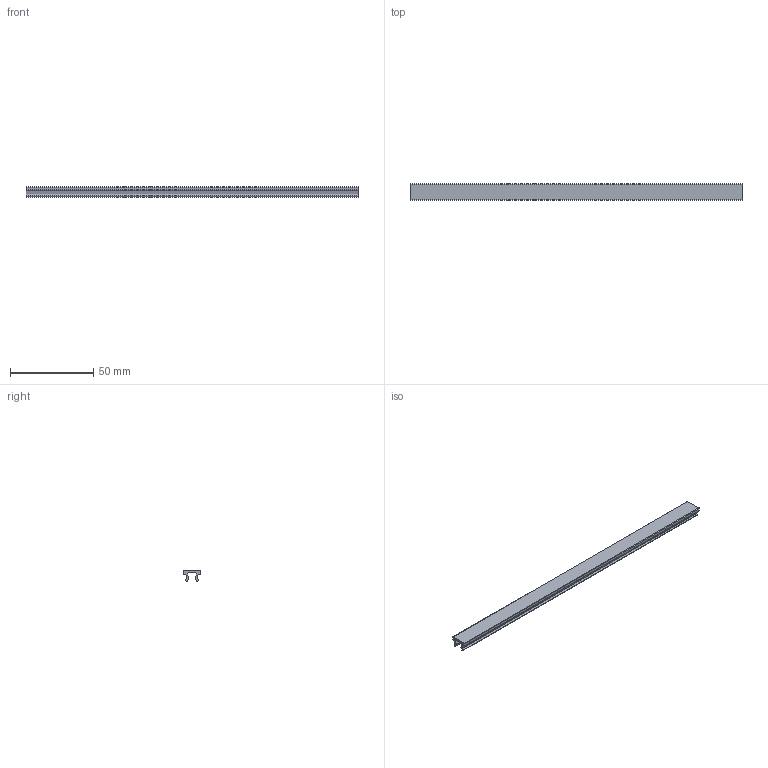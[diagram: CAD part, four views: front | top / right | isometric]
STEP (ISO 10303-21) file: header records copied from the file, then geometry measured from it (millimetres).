
FILE_DESCRIPTION(('STEP AP214'),'1');
FILE_NAME('CV1FB-.stp','2021-12-28T10:07:25',(' '),(' '),'Spatial InterOp 3D',' ',' ');
FILE_SCHEMA(('AUTOMOTIVE_DESIGN { 1 0 10303 214 1 1 1 1 }'));
Length unit declared in the file: millimetre
Products named in the file (1): CV1FB-
Bounding box: 200 x 10 x 6.2 mm (x, y, z)
Volume: 5227.5 mm3; surface area: 8281.8 mm2
Topology: 1 solids, 1 shells, 34 faces, 96 edges, 64 vertices
Faces by surface type: plane 18, cylinder 16
Entity records: 1400 total; most frequent: DIRECTION 198, CARTESIAN_POINT 195, ORIENTED_EDGE 192, EDGE_CURVE 96, AXIS2_PLACEMENT_3D 67, VERTEX_POINT 64, LINE 64, VECTOR 64
